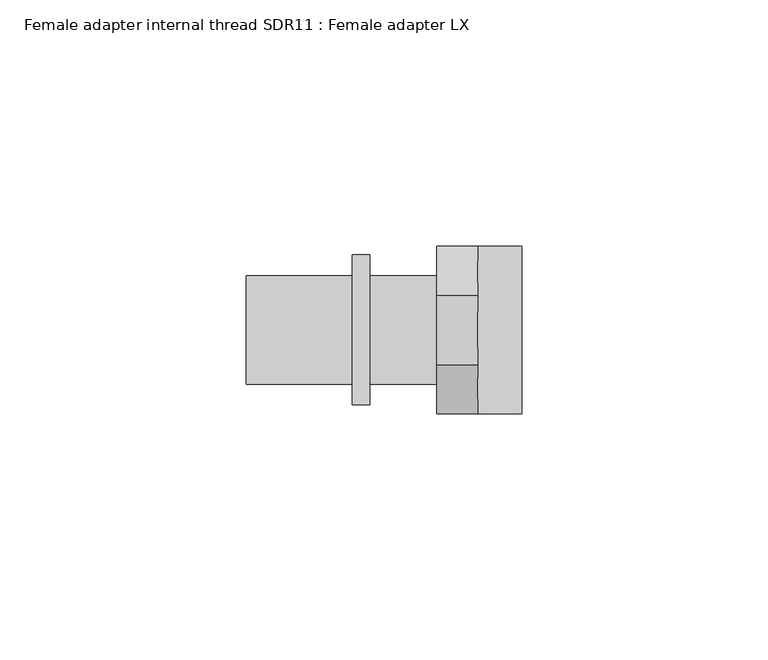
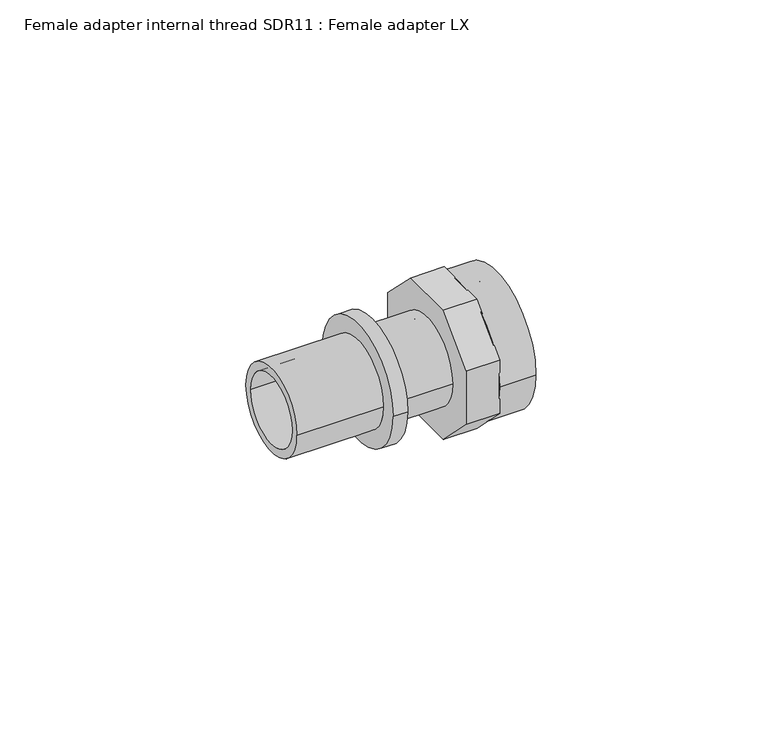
"""IFC4 building model written with IfcOpenShell, lengths in millimetres: pipe fitting geometry, Female adapter internal thread SDR11 : Female adapter LX."""

from ifc_helpers import new_model, si_unit, point, frame, origin, origin_2d, place, context, project, spatial, polyline, circle_curve, trimmed, segment, composite_curve, outline, extrude, source, transform, mapped, element, save
from ifc_brep_helpers import plane_surface, cylinder_surface, revolved_surface, advanced_brep


def female_adapter_internal_thread_sdr11_female_adapter_lx_0baaf817(model_context):
    return source(origin(), model_context, "Body", "SolidModel", [
        extrude(outline(composite_curve([segment(trimmed(circle_curve(origin_2d(), 17.0), [point((17.0, 0.0))], [point((-17.0, 0.0))], False, "CARTESIAN"), True, "CONTINUOUS"), segment(trimmed(circle_curve(origin_2d(), 17.0), [point((-17.0, 0.0))], [point((17.0, 0.0))], False, "CARTESIAN"), True, "CONTINUOUS")], self_intersect=False), holes=[composite_curve([segment(trimmed(circle_curve(origin_2d(), 12.15), [point((12.15, 0.0))], [point((-12.15, 0.0))], True, "CARTESIAN"), True, "CONTINUOUS"), segment(trimmed(circle_curve(origin_2d(), 12.15), [point((-12.15, 0.0))], [point((12.15, 0.0))], True, "CARTESIAN"), True, "CONTINUOUS")], self_intersect=False)]), frame((8.3, 0.0, 0.0), z_axis=(1.0, 0.0, 0.0), x_axis=(0.0, 1.0, 0.0)), (0.0, 0.0, 1.0), 9.0),
        advanced_brep(
        [(-17.2, 11.0, 0.0), (-17.2, -11.0, 0.0), (-38.7, -11.0, 0.0), (-38.7, 11.0, 0.0), (-13.6, 15.25, 0.0), (-13.6, -15.25, 0.0), (-17.2, -15.25, 0.0), (-17.2, 15.25, 0.0), (0.0, 11.0, 0.0), (0.0, -11.0, 0.0), (-13.6, -11.0, 0.0), (-13.6, 11.0, 0.0), (-38.7, 8.9, 0.0), (-38.7, -8.9, 0.0), (0.0, -8.9, 0.0), (0.0, 8.9, 0.0)],
        [
            (0, 1, circle_curve(frame((-17.2, 0.0, 0.0), z_axis=(-1.0, 0.0, 0.0), x_axis=(0.0, -1.0, 0.0)), 11.0)),
            (1, 2),
            (2, 3, circle_curve(frame((-38.7, 0.0, 0.0), z_axis=(1.0, 0.0, 0.0), x_axis=(0.0, -1.0, 0.0)), 11.0)),
            (3, 0),
            (4, 5, circle_curve(frame((-13.6, 0.0, 0.0), z_axis=(-1.0, 0.0, 0.0), x_axis=(0.0, -1.0, 0.0)), 15.25)),
            (5, 6),
            (6, 7, circle_curve(frame((-17.2, 0.0, 0.0), z_axis=(1.0, 0.0, 0.0), x_axis=(0.0, -1.0, 0.0)), 15.25)),
            (7, 4),
            (8, 9, circle_curve(frame((0.0, 0.0, 0.0), z_axis=(-1.0, 0.0, 0.0), x_axis=(0.0, -1.0, 0.0)), 11.0)),
            (9, 10),
            (10, 11, circle_curve(frame((-13.6, 0.0, 0.0), z_axis=(1.0, 0.0, 0.0), x_axis=(0.0, -1.0, 0.0)), 11.0)),
            (11, 8),
            (12, 13, circle_curve(frame((-38.7, 0.0, 0.0), z_axis=(-1.0, 0.0, 0.0), x_axis=(0.0, -1.0, 0.0)), 8.9)),
            (13, 14),
            (14, 15, circle_curve(frame((0.0, 0.0, 0.0), z_axis=(1.0, 0.0, 0.0), x_axis=(0.0, -1.0, 0.0)), 8.9)),
            (15, 12),
            (2, 3, circle_curve(frame((-38.7, 0.0, 0.0), z_axis=(-1.0, 0.0, 0.0), x_axis=(0.0, 1.0, 0.0)), 11.0)),
            (12, 13, circle_curve(frame((-38.7, 0.0, 0.0), z_axis=(1.0, 0.0, 0.0), x_axis=(0.0, 1.0, 0.0)), 8.9)),
            (1, 0, circle_curve(frame((-17.2, 0.0, 0.0), z_axis=(-1.0, 0.0, 0.0), x_axis=(0.0, 1.0, 0.0)), 11.0)),
            (6, 7, circle_curve(frame((-17.2, 0.0, 0.0), z_axis=(-1.0, 0.0, 0.0), x_axis=(0.0, 1.0, 0.0)), 15.25)),
            (5, 4, circle_curve(frame((-13.6, 0.0, 0.0), z_axis=(-1.0, 0.0, 0.0), x_axis=(0.0, 1.0, 0.0)), 15.25)),
            (10, 11, circle_curve(frame((-13.6, 0.0, 0.0), z_axis=(-1.0, 0.0, 0.0), x_axis=(0.0, 1.0, 0.0)), 11.0)),
            (9, 8, circle_curve(frame((0.0, 0.0, 0.0), z_axis=(-1.0, 0.0, 0.0), x_axis=(0.0, 1.0, 0.0)), 11.0)),
            (14, 15, circle_curve(frame((0.0, 0.0, 0.0), z_axis=(-1.0, 0.0, 0.0), x_axis=(0.0, 1.0, 0.0)), 8.9)),
        ],
        [
            cylinder_surface(frame((0.0, 0.0, 0.0), z_axis=(1.0, 0.0, 0.0), x_axis=(0.0, -1.0, 0.0)), 11.0),
            cylinder_surface(frame((0.0, 0.0, 0.0), z_axis=(1.0, 0.0, 0.0), x_axis=(0.0, -1.0, 0.0)), 15.25),
            revolved_surface(polyline([(0.0, -8.9, 0.0), (-38.7, -8.9, 0.0)]), (0.0, 0.0, 0.0), (1.0, 0.0, 0.0)),
            plane_surface(frame((-38.7, 0.0, 0.0), z_axis=(-1.0, 0.0, 0.0), x_axis=(0.0, 1.0, 0.0))),
            cylinder_surface(frame((0.0, 0.0, 0.0), z_axis=(1.0, 0.0, 0.0), x_axis=(0.0, 1.0, 0.0)), 11.0),
            plane_surface(frame((-17.2, 0.0, 0.0), z_axis=(-1.0, 0.0, 0.0), x_axis=(0.0, 1.0, 0.0))),
            cylinder_surface(frame((0.0, 0.0, 0.0), z_axis=(1.0, 0.0, 0.0), x_axis=(0.0, 1.0, 0.0)), 15.25),
            plane_surface(frame((-13.6, 0.0, 0.0), z_axis=(1.0, 0.0, 0.0), x_axis=(0.0, 1.0, 0.0))),
            plane_surface(frame((0.0, 0.0, 0.0), z_axis=(1.0, 0.0, 0.0), x_axis=(0.0, 1.0, 0.0))),
            revolved_surface(polyline([(0.0, 8.9, 0.0), (-38.7, 8.9, 0.0)]), (0.0, 0.0, 0.0), (1.0, 0.0, 0.0)),
        ],
        [
            (0, [[1, 2, 3, 4]]),
            (1, [[5, 6, 7, 8]]),
            (0, [[9, 10, 11, 12]]),
            (2, [[13, 14, 15, 16]]),
            (3, [[17, -3], [18, -13]]),
            (4, [[19, -4, -17, -2]]),
            (5, [[20, -7], [-19, -1]]),
            (6, [[21, -8, -20, -6]]),
            (7, [[-21, -5], [22, -11]]),
            (4, [[23, -12, -22, -10]]),
            (8, [[-23, -9], [24, -15]]),
            (9, [[-18, -16, -24, -14]]),
        ],
    ),
        extrude(outline(polyline([(-17.0, 7.0416306), (-7.0416306, 17.0), (7.0416306, 17.0), (17.0, 7.0416306), (17.0, -7.0416306), (7.0416306, -17.0), (-7.0416306, -17.0), (-17.0, -7.0416306), (-17.0, 7.0416306)])), frame((0.0, 0.0, 0.0), z_axis=(1.0, 0.0, 0.0), x_axis=(0.0, 1.0, 0.0)), (0.0, 0.0, 1.0), 8.3),
    ])


if __name__ == "__main__":
    model = new_model("IFC4")
    model_context = context("Model", 3, world=origin())
    ifc_project = project(units=[si_unit("LENGTHUNIT", "METRE", prefix="MILLI")], contexts=[model_context])
    site = spatial("IfcSite", under=ifc_project)
    building = spatial("IfcBuilding", under=site)
    placement = place(None, origin())
    female_adapter_internal_thread_sdr11_female_adapter_lx_shape = female_adapter_internal_thread_sdr11_female_adapter_lx_0baaf817(model_context)
    element("IfcPipeFitting", 1, ObjectType="Female adapter internal thread SDR11 : Female adapter LX", at=placement, inside=building, context=model_context, shape_type="MappedRepresentation", body=[
        mapped(female_adapter_internal_thread_sdr11_female_adapter_lx_shape, transform((0.0, 0.0, 0.0), x_axis=(1.0, 0.0, 0.0), y_axis=(0.0, 1.0, 0.0), z_axis=(0.0, 0.0, 1.0))),
    ])
    save(model, "model.ifc")
